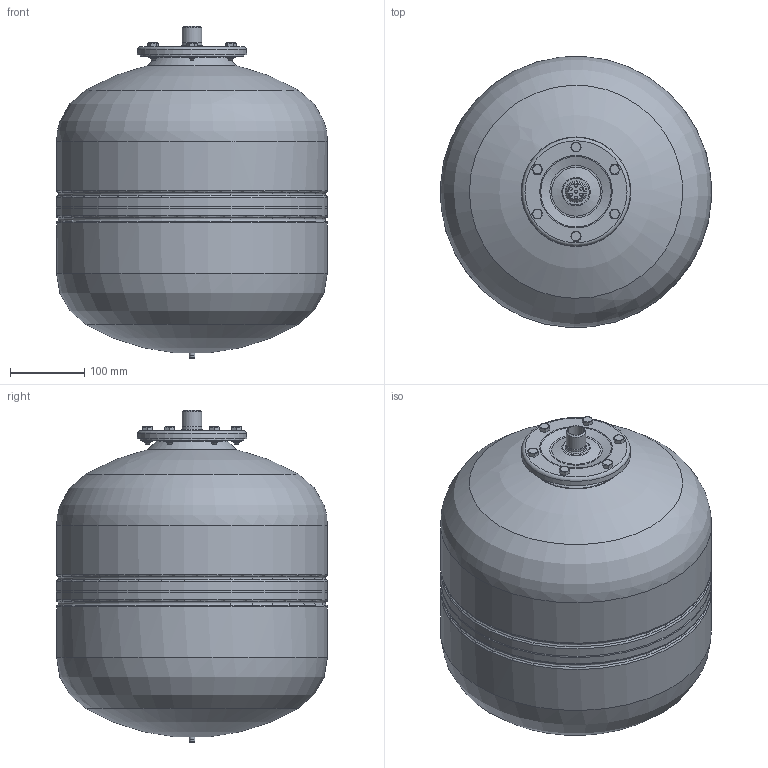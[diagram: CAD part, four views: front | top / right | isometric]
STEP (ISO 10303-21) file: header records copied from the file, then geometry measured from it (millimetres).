
FILE_DESCRIPTION(('STEP AP214'), '1');
FILE_NAME('WAV-35', '', ('UNSPECIFIED'), ('UNSPECIFIED'), 'ASCON STEP Converter 1.3', 'ASCON Math Kernel', '');
FILE_SCHEMA(('AUTOMOTIVE_DESIGN { 1 0 10303 214 3 1 1}'));
Length unit declared in the file: millimetre
Bounding box: 365.06 x 365.06 x 447 mm (x, y, z)
Volume: 34134447.7 mm3; surface area: 557015.1 mm2
Topology: 1 solids, 1 shells, 165 faces, 461 edges, 331 vertices
Faces by surface type: plane 77, cone 33, cylinder 29, torus 24, sphere 2
Full cylindrical faces by diameter (mm): 4 x7, 5.5 x1, 8 x7, 14 x6, 21.2 x1, 26.442 x1, 26.8 x1, 140 x1, 365 x4
Entity records: 8411 total; most frequent: CARTESIAN_POINT 2922, DIRECTION 892, ORIENTED_EDGE 770, AXIS2_PLACEMENT_3D 407, EDGE_CURVE 385, VERTEX_POINT 331, EDGE_LOOP 274, FACE_BOUND 264
